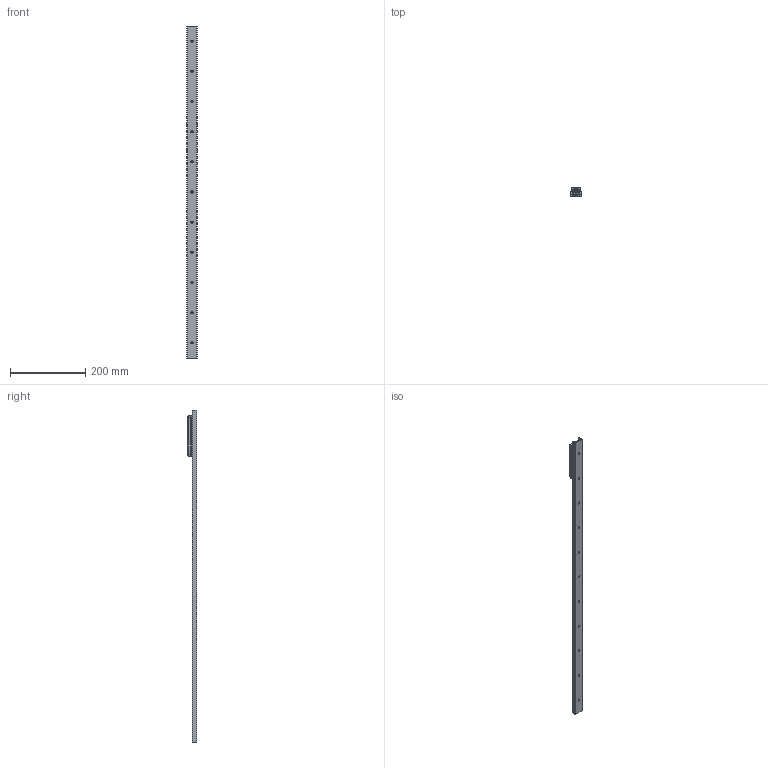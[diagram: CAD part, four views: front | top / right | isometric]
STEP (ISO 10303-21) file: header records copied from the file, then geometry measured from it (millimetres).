
FILE_DESCRIPTION( ( 'STEP AP214' ), '1' );
FILE_NAME( 'p:/temp/worker_8/temp/exporttempdir_3352_360_Bwl5F/format_1/TGV-00880_1_RV28G-3.stp', '2020-11-20T15:17:58', ( 'License CC BY-ND 4.0' ), ( 'CADENAS' ), ' ', 'PARTsolutions', ' ' );
FILE_SCHEMA( ( 'AUTOMOTIVE_DESIGN { 1 0 10303 214 1 1 1 1 }' ) );
Length unit declared in the file: millimetre
Products named in the file (6): TGV-00880/1/RV28G-3; _TGV28-0880-(3-1); _RV28G-3-slider; _RGNV28R; _RGAV28R; _WR28G-01
Assembly tree (7 placements, depth 2):
  TGV-00880/1/RV28G-3
    _TGV28-0880-(3-1)
    _RV28G-3-slider
    _RGNV28R  x2
    _RGAV28R
    _WR28G-01  x2
Bounding box: 28 x 24 x 880 mm (x, y, z)
Volume: 163550.2 mm3; surface area: 103128.3 mm2
Topology: 7 solids, 7 shells, 1034 faces, 2700 edges, 1762 vertices
Faces by surface type: plane 657, cylinder 291, cone 51, bspline 26, torus 9
Full cylindrical faces by diameter (mm): 1.27 x4, 2 x2, 2.5 x6, 4 x4, 4.134 x4, 4.2 x3, 5 x3, 5.5 x3, 5.75 x11, 7 x5, 7.5 x1, 8 x6, 10.8 x3, 17 x3, 20.75 x6
Entity records: 24821 total; most frequent: CARTESIAN_POINT 3963, DIRECTION 3310, ORIENTED_EDGE 3060, EDGE_CURVE 1530, AXIS2_PLACEMENT_3D 1260, VERTEX_POINT 1062, EDGE_LOOP 857, LINE 790
